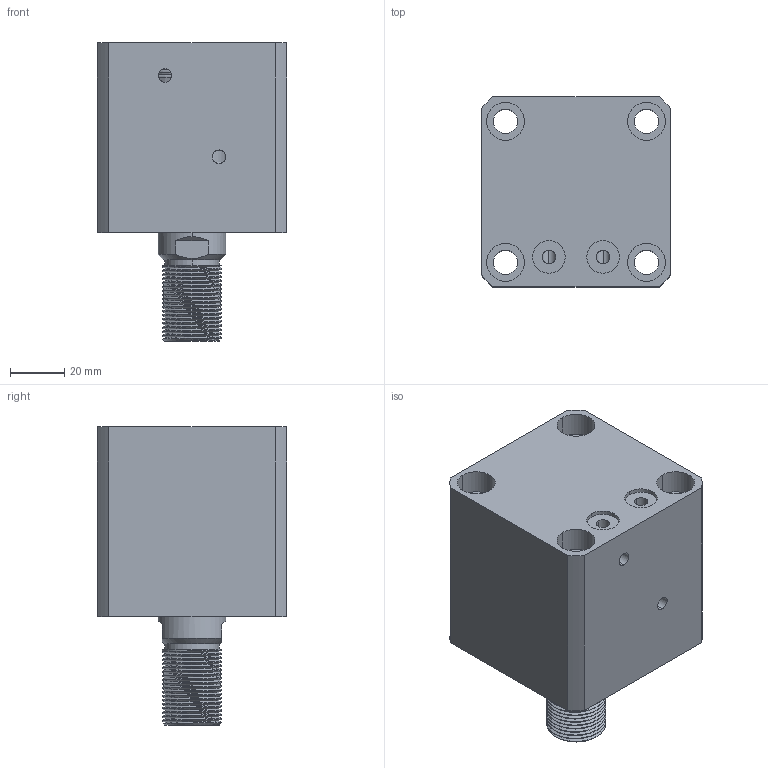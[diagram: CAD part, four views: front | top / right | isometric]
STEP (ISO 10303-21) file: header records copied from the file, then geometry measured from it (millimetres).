
FILE_DESCRIPTION (( 'STEP AP214' ), '1' );
FILE_NAME ('chtb-sdmb40x15w_asm.STEP', '2018-06-07T01:29:54', ( 'Windows' ), ( 'Microsoft' ), 'SwSTEP 2.0', 'SolidWorks 2015', '' );
FILE_SCHEMA (( 'AUTOMOTIVE_DESIGN' ));
Length unit declared in the file: millimetre
Products named in the file (4): chtb-sdmb40x15w_asm; CHTB-SDMB40X15NBT; CHTB-SD40X15WHSG; CHTB-SD40QG
Assembly tree (3 placements, depth 2):
  chtb-sdmb40x15w_asm
    CHTB-SD40QG
    CHTB-SD40X15WHSG
    CHTB-SDMB40X15NBT
Bounding box: 70 x 70 x 110 mm (x, y, z)
Volume: 314947 mm3; surface area: 70141.6 mm2
Topology: 3 solids, 4 shells, 201 faces, 539 edges, 359 vertices
Faces by surface type: cylinder 122, plane 38, bspline 16, torus 14, cone 11
Entity records: 13455 total; most frequent: CARTESIAN_POINT 8586, ORIENTED_EDGE 1066, DIRECTION 904, EDGE_CURVE 533, AXIS2_PLACEMENT_3D 374, VERTEX_POINT 359, EDGE_LOOP 238, ADVANCED_FACE 201
